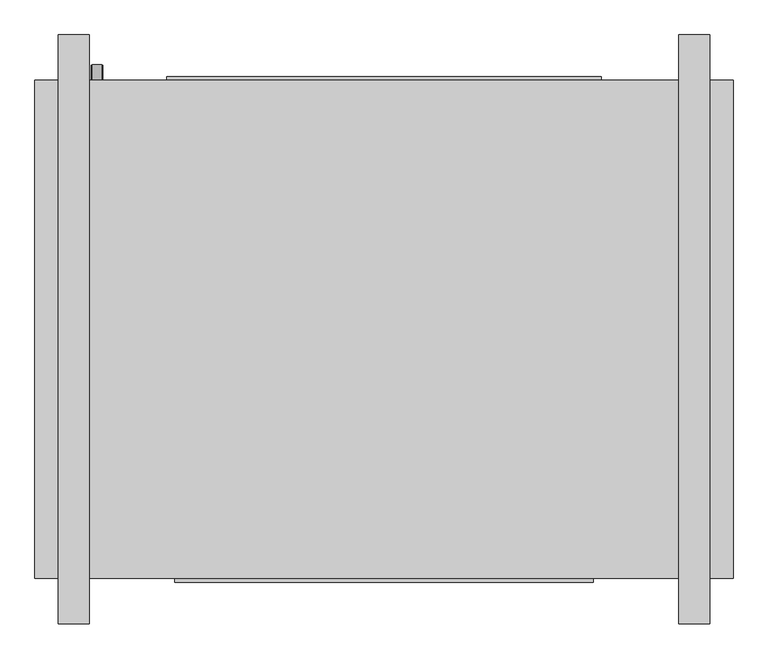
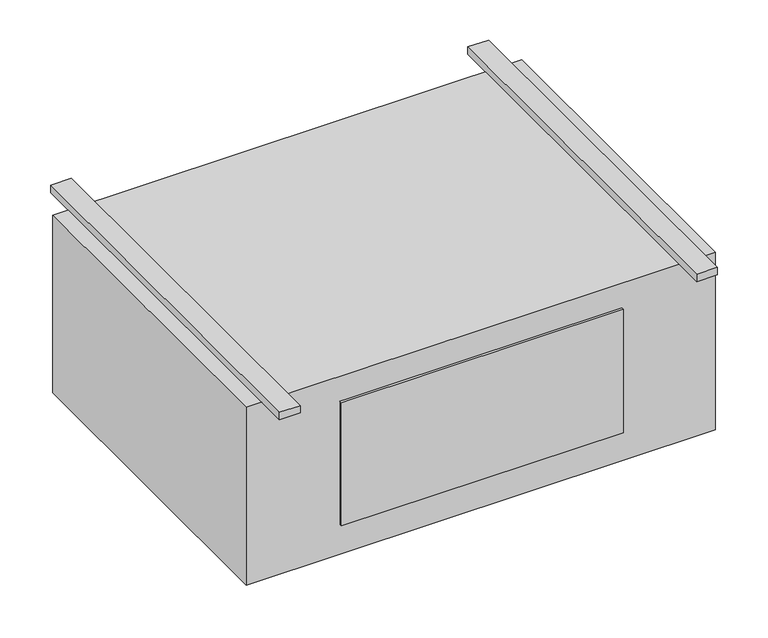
"""IFC4 building model written with IfcOpenShell, lengths in millimetres: proxy geometry, Exposed_High_Capacity_Horizontal_Cabinet_Fan_Coil_Unit_-_42DFA_-_CARRIER_-_2-Pipe_Cool-EHeat_LH_2022 : Size 12 - 277v/60Hz/1Ph - 6 Row 9.0kW."""

from ifc_helpers import new_model, si_unit, point, frame, frame_2d, origin, origin_with_axes, place, context, project, spatial, polyline, circle_curve, trimmed, segment, composite_curve, outline, extrude, source, transform, mapped, element, save


def mechanical_equipment_3ababbc8(model_context):
    return source(origin(), model_context, "Body", "SweptSolid", [
        extrude(outline(composite_curve([segment(trimmed(circle_curve(frame_2d((-406.4, -317.5)), 9.525), [point((-406.4, -327.025))], [point((-406.4, -307.975))], False, "CARTESIAN"), True, "CONTINUOUS"), segment(trimmed(circle_curve(frame_2d((-406.4, -317.5)), 9.525), [point((-406.4, -307.975))], [point((-406.4, -327.025))], False, "CARTESIAN"), True, "CONTINUOUS")], self_intersect=False)), frame((0.0, 169.8625, 0.0), z_axis=(0.0, 1.0, 0.0), x_axis=(0.0, 0.0, 1.0)), (0.0, 0.0, 1.0), 25.4),
        extrude(outline(composite_curve([segment(trimmed(circle_curve(frame_2d((-330.2, -317.5)), 7.9375), [point((-330.2, -325.4375))], [point((-330.2, -309.5625))], False, "CARTESIAN"), True, "CONTINUOUS"), segment(trimmed(circle_curve(frame_2d((-330.2, -317.5)), 7.9375), [point((-330.2, -309.5625))], [point((-330.2, -325.4375))], False, "CARTESIAN"), True, "CONTINUOUS")], self_intersect=False)), frame((0.0, 169.8625, 0.0), z_axis=(0.0, 1.0, 0.0), x_axis=(0.0, 0.0, 1.0)), (0.0, 0.0, 1.0), 25.4),
        extrude(outline(composite_curve([segment(trimmed(circle_curve(frame_2d((-254.0, -317.5)), 7.9375), [point((-254.0, -325.4375))], [point((-254.0, -309.5625))], False, "CARTESIAN"), True, "CONTINUOUS"), segment(trimmed(circle_curve(frame_2d((-254.0, -317.5)), 7.9375), [point((-254.0, -309.5625))], [point((-254.0, -325.4375))], False, "CARTESIAN"), True, "CONTINUOUS")], self_intersect=False)), frame((0.0, 169.8625, 0.0), z_axis=(0.0, 1.0, 0.0), x_axis=(0.0, 0.0, 1.0)), (0.0, 0.0, 1.0), 25.4),
        extrude(outline(polyline([(723.9, 169.8625), (723.9, -646.1125), (-419.1, -646.1125), (-419.1, 169.8625), (723.9, 169.8625)])), frame((0.0, 0.0, -457.2), z_axis=(0.0, 0.0, 1.0), x_axis=(1.0, 0.0, 0.0)), (0.0, 0.0, 1.0), 457.2),
        extrude(outline(polyline([(-203.2, 176.2125), (508.0, 176.2125), (508.0, 169.8625), (-203.2, 169.8625), (-203.2, 176.2125)])), frame((0.0, 0.0, -381.0), z_axis=(0.0, 0.0, 1.0), x_axis=(1.0, 0.0, 0.0)), (0.0, 0.0, 1.0), 355.6),
        extrude(outline(polyline([(-330.2, 244.475), (-330.2, -720.725), (-381.0, -720.725), (-381.0, 244.475), (-330.2, 244.475)])), origin_with_axes(), (0.0, 0.0, 1.0), 19.05),
        extrude(outline(polyline([(685.8, 244.475), (685.8, -720.725), (635.0, -720.725), (635.0, 244.475), (685.8, 244.475)])), origin_with_axes(), (0.0, 0.0, 1.0), 19.05),
        extrude(outline(polyline([(495.3, -652.4625), (-190.5, -652.4625), (-190.5, -646.1125), (495.3, -646.1125), (495.3, -652.4625)])), frame((0.0, 0.0, -381.0), z_axis=(0.0, 0.0, 1.0), x_axis=(1.0, 0.0, 0.0)), (0.0, 0.0, 1.0), 317.5),
    ])


if __name__ == "__main__":
    model = new_model("IFC4")
    model_context = context("Model", 3, world=origin())
    ifc_project = project(units=[si_unit("LENGTHUNIT", "METRE", prefix="MILLI")], contexts=[model_context])
    site = spatial("IfcSite", under=ifc_project)
    building = spatial("IfcBuilding", under=site)
    placement = place(None, origin())
    mechanical_equipment_shape = mechanical_equipment_3ababbc8(model_context)
    element("IfcBuildingElementProxy", 1, Name="Exposed_High_Capacity_Horizontal_Cabinet_Fan_Coil_Unit_-_42DFA_-_CARRIER_-_2-Pipe_Cool-EHeat_LH_2022 : Size 12 - 277v/60Hz/1Ph - 6 Row 9.0kW", ObjectType="Exposed_High_Capacity_Horizontal_Cabinet_Fan_Coil_Unit_-_42DFA_-_CARRIER_-_2-Pipe_Cool-EHeat_LH_2022 : Size 12 - 277v/60Hz/1Ph - 6 Row 9.0kW", at=placement, inside=building, context=model_context, shape_type="MappedRepresentation", body=[
        mapped(mechanical_equipment_shape, transform((0.0, 0.0, 0.0), x_axis=(1.0, 0.0, 0.0), y_axis=(0.0, 1.0, 0.0), z_axis=(0.0, 0.0, 1.0))),
    ])
    save(model, "model.ifc")
